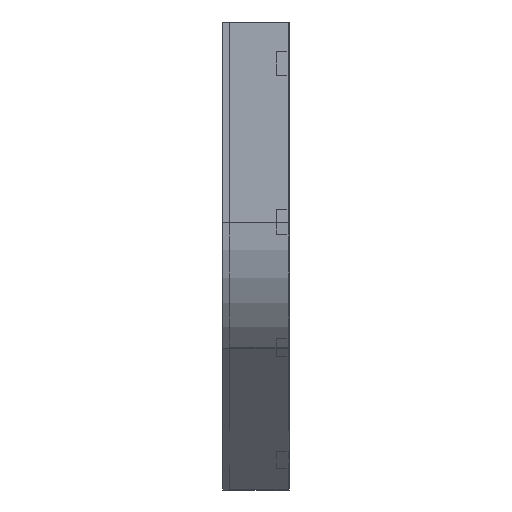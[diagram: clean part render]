
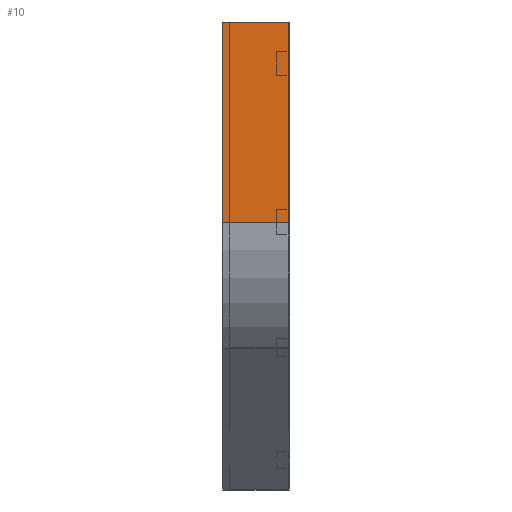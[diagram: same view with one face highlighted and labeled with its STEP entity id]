
A CAD part, left-side view. The second image highlights one B-rep face of the part: STEP entity #10.
In plain terms, the highlighted planar face has unit normal (-1, 0, 0).
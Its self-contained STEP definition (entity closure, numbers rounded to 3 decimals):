
#10 = ADVANCED_FACE ( 'NONE', ( #1621 ), #1361, .F. ) ;
#15 = LINE ( 'NONE', #302, #450 ) ;
#110 = ORIENTED_EDGE ( 'NONE', *, *, #1131, .T. ) ;
#155 = DIRECTION ( 'NONE',  ( 0., 0., -1. ) ) ;
#171 = CARTESIAN_POINT ( 'NONE',  ( 0., 0., 0. ) ) ;
#195 = ORIENTED_EDGE ( 'NONE', *, *, #785, .F. ) ;
#302 = CARTESIAN_POINT ( 'NONE',  ( 0., 0., -339.949 ) ) ;
#443 = CARTESIAN_POINT ( 'NONE',  ( 0., 0., 0. ) ) ;
#450 = VECTOR ( 'NONE', #1719, 1000. ) ;
#539 = VERTEX_POINT ( 'NONE', #1862 ) ;
#693 = VERTEX_POINT ( 'NONE', #1389 ) ;
#762 = CARTESIAN_POINT ( 'NONE',  ( 0., 0., 0. ) ) ;
#785 = EDGE_CURVE ( 'NONE', #1680, #1321, #1600, .T. ) ;
#852 = AXIS2_PLACEMENT_3D ( 'NONE', #443, #1342, #1167 ) ;
#854 = EDGE_CURVE ( 'NONE', #539, #693, #856, .T. ) ;
#856 = LINE ( 'NONE', #1154, #1729 ) ;
#900 = EDGE_CURVE ( 'NONE', #539, #1680, #1478, .T. ) ;
#947 = CARTESIAN_POINT ( 'NONE',  ( 0., 0., -339.949 ) ) ;
#973 = EDGE_LOOP ( 'NONE', ( #195, #1824, #1162, #110 ) ) ;
#1087 = VECTOR ( 'NONE', #1355, 1000. ) ;
#1131 = EDGE_CURVE ( 'NONE', #693, #1321, #15, .T. ) ;
#1154 = CARTESIAN_POINT ( 'NONE',  ( 0., 112.5, 0. ) ) ;
#1162 = ORIENTED_EDGE ( 'NONE', *, *, #854, .T. ) ;
#1167 = DIRECTION ( 'NONE',  ( 0., 0., -1. ) ) ;
#1309 = DIRECTION ( 'NONE',  ( 0., 0., -1. ) ) ;
#1321 = VERTEX_POINT ( 'NONE', #947 ) ;
#1342 = DIRECTION ( 'NONE',  ( 1., 0., 0. ) ) ;
#1355 = DIRECTION ( 'NONE',  ( 0., -1., 0. ) ) ;
#1361 = PLANE ( 'NONE',  #852 ) ;
#1389 = CARTESIAN_POINT ( 'NONE',  ( 0., 112.5, -339.949 ) ) ;
#1478 = LINE ( 'NONE', #171, #1087 ) ;
#1573 = CARTESIAN_POINT ( 'NONE',  ( 0., 0., 0. ) ) ;
#1600 = LINE ( 'NONE', #1573, #1753 ) ;
#1621 = FACE_OUTER_BOUND ( 'NONE', #973, .T. ) ;
#1680 = VERTEX_POINT ( 'NONE', #762 ) ;
#1719 = DIRECTION ( 'NONE',  ( 0., -1., 0. ) ) ;
#1729 = VECTOR ( 'NONE', #155, 1000. ) ;
#1753 = VECTOR ( 'NONE', #1309, 1000. ) ;
#1824 = ORIENTED_EDGE ( 'NONE', *, *, #900, .F. ) ;
#1862 = CARTESIAN_POINT ( 'NONE',  ( 0., 112.5, 0. ) ) ;
